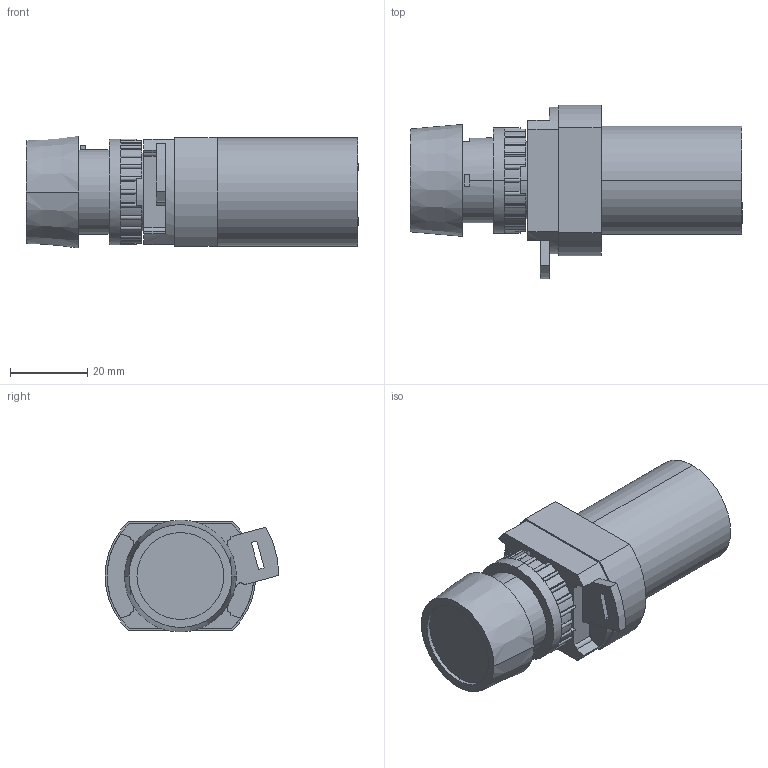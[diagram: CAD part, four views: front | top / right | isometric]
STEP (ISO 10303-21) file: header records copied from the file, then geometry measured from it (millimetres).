
FILE_DESCRIPTION (( 'STEP AP203' ), '1' );
FILE_NAME ('18-T-23-011_T-30-510-Airtec.step', '2006-10-31T13:13:44', ( 'Gustaf Hederström' ), ( 'Cevican AB' ), 'SwSTEP 2.0', 'SolidWorks 2002308', '' );
FILE_SCHEMA (( 'CONFIG_CONTROL_DESIGN' ));
Length unit declared in the file: millimetre
Products named in the file (3): 18-T-23-011_T-30-510-Airtec; T-30-510-Airtec; 18-T-23-011-Airtec
Assembly tree (2 placements, depth 2):
  18-T-23-011_T-30-510-Airtec
    18-T-23-011-Airtec
    T-30-510-Airtec
Bounding box: 86 x 45 x 29 mm (x, y, z)
Volume: 52771.2 mm3; surface area: 14168 mm2
Topology: 2 solids, 2 shells, 380 faces, 1047 edges, 679 vertices
Faces by surface type: plane 209, cylinder 157, cone 14
Entity records: 12409 total; most frequent: DIRECTION 2202, CARTESIAN_POINT 2101, ORIENTED_EDGE 2074, EDGE_CURVE 1037, AXIS2_PLACEMENT_3D 780, VERTEX_POINT 679, LINE 642, VECTOR 642
